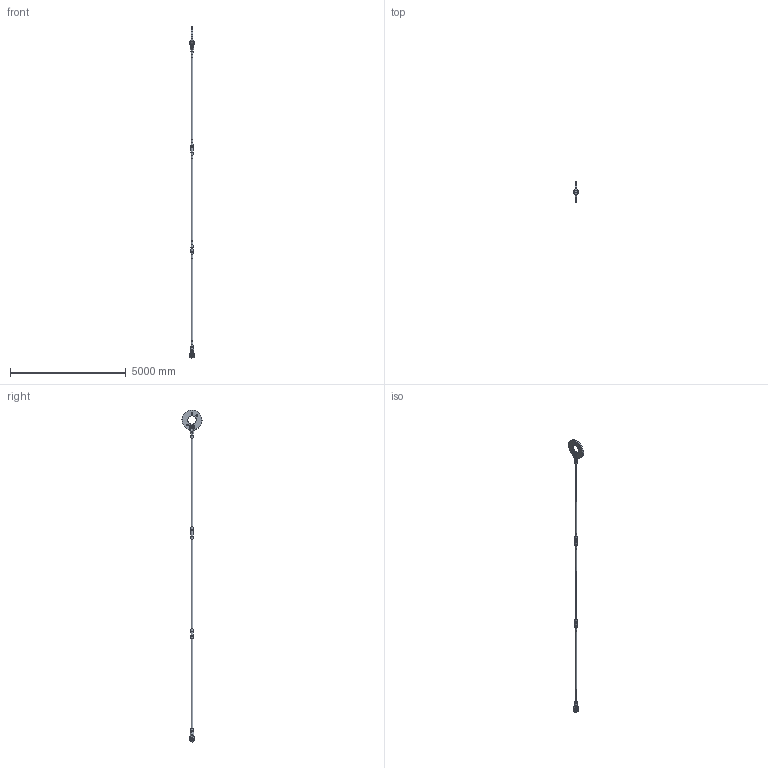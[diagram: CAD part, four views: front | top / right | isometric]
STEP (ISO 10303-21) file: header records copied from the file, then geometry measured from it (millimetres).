
FILE_DESCRIPTION(/* description */ (''),/* implementation_level */ '2;1');
FILE_NAME(/* name */ 'C:\Vault-WS\Anker\Werksnorm\Hochbau\ASDO-System\ASDO-S\System Komplett\Step\M 072.stp',/* time_stamp */ '2014-01-30T09:23:13+01:00',/* author */ ('ritgen'),/* organization */ (''),/* preprocessor_version */ 'ST-DEVELOPER v15.2',/* originating_system */ 'Autodesk Inventor 2014',/* authorisation */ '');
FILE_SCHEMA (('AUTOMOTIVE_DESIGN { 1 0 10303 214 3 1 1 }'));
Length unit declared in the file: millimetre
Products named in the file (11): ASDO-005766; ASDO-014271; ASDO-014325; DIN 7991 - M12x30 - 8.8; ASDO-013940; ASDO-001701; ASDO-001343; ASDO-001459; ASDO-006343; ASDO-014033; ASDO-006342
Bounding box: 182 x 869.17 x 14331.9 mm (x, y, z)
Volume: 97869692.3 mm3; surface area: 5865774.7 mm2
Topology: 24 solids, 24 shells, 495 faces, 1056 edges, 646 vertices
Faces by surface type: plane 168, bspline 144, cylinder 85, cone 54, torus 44
Full cylindrical faces by diameter (mm): 9 x18, 10.106 x4, 12 x4, 14 x4, 24 x4, 65.505 x11, 72 x5, 74 x10, 75 x1, 76 x6, 103.5 x6, 110 x4, 114.3 x2, 360 x1, 870 x1
Entity records: 13990 total; most frequent: CARTESIAN_POINT 9700, DIRECTION 770, ORIENTED_EDGE 766, EDGE_CURVE 383, AXIS2_PLACEMENT_3D 353, EDGE_LOOP 318, VERTEX_POINT 269, ADVANCED_FACE 213
